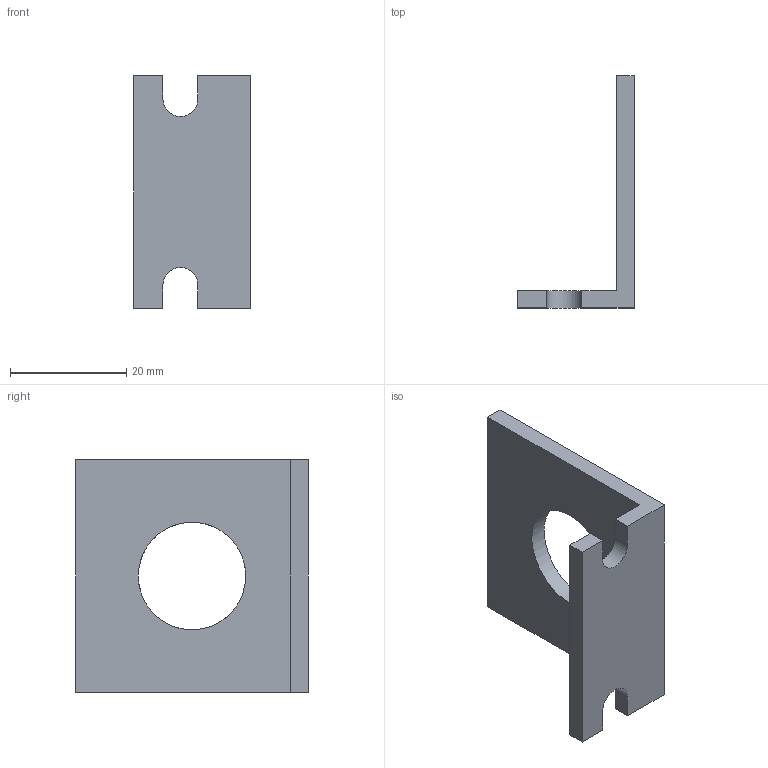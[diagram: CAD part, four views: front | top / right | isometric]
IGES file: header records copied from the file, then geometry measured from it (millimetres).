
Global section: file name: 153-00015_MA 18 Montagewinkel FM 18_0; native system: Autodesk Inventor 2014; preprocessor: unknown; author: mkn; date: 20150305.111620; units: millimetre
Bounding box: 20 x 40 x 40 mm (x, y, z)
Volume: 5804.9 mm3; surface area: 4694.9 mm2
Topology: 1 solids, 1 shells, 17 faces, 46 edges, 31 vertices
Faces by surface type: bspline 17
